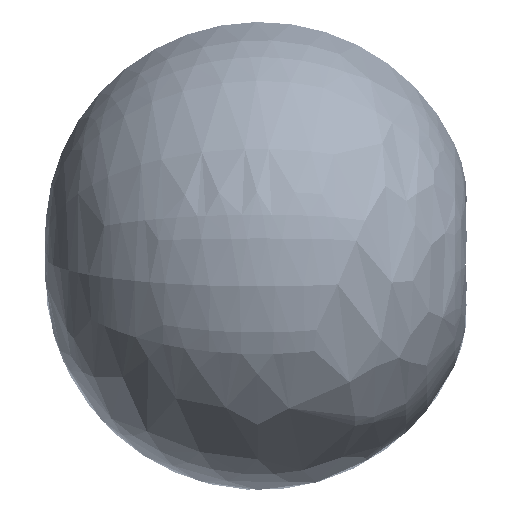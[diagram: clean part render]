
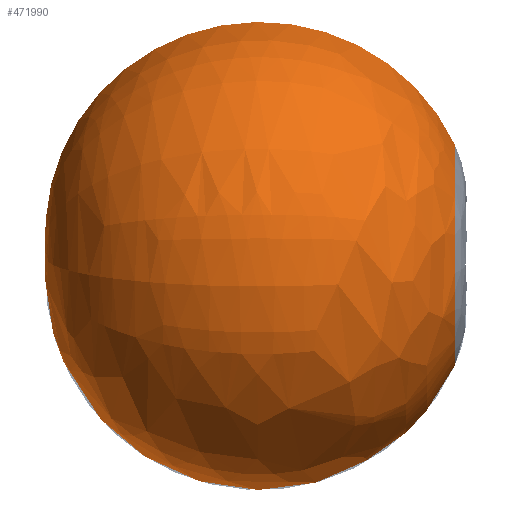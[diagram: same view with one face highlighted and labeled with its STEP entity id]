
A CAD part, left-side view. The second image highlights one B-rep face of the part: STEP entity #471990.
In plain terms, the highlighted free-form (B-spline) face has degree [3, 3] with [7, 4] control points.
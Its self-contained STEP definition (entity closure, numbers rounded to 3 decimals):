
#471766=CARTESIAN_POINT('',(-32.993,455.,187.113));
#471767=DIRECTION('',(-0.985,0.,-0.174));
#471768=DIRECTION('',(-0.073,-0.906,0.416));
#471769=AXIS2_PLACEMENT_3D('',#471766,#471767,#471768);
#471795=CARTESIAN_POINT('',(32.993,455.,187.113));
#471796=DIRECTION('',(-0.985,0.,0.174));
#471797=DIRECTION('',(0.073,-0.906,0.416));
#471798=AXIS2_PLACEMENT_3D('',#471795,#471796,#471797);
#471810=CARTESIAN_POINT('',(0.,-1295.129,0.));
#471811=DIRECTION('',(0.,-1.,0.));
#471812=DIRECTION('',(-0.174,0.,0.985));
#471813=AXIS2_PLACEMENT_3D('',#471810,#471811,#471812);
#471828=CARTESIAN_POINT('',(-174.707,-1295.129,
990.814));
#471829=VERTEX_POINT('',#471828);
#471830=CARTESIAN_POINT('',(0.,2376.684,
0.));
#471831=VERTEX_POINT('',#471830);
#471838=CARTESIAN_POINT('',(174.707,-1295.129,
990.814));
#471839=VERTEX_POINT('',#471838);
#471955=CARTESIAN_POINT('',(0.,2376.684,0.));
#471956=CARTESIAN_POINT('',(-165.851,2670.441,
2966.465));
#471957=CARTESIAN_POINT('',(-205.37,-229.993,
3673.313));
#471958=CARTESIAN_POINT('',(-50.615,-1338.118,
905.313));
#471959=CARTESIAN_POINT('',(0.,2376.684,
0.));
#471960=CARTESIAN_POINT('',(-5782.799,2670.441,
2652.429));
#471961=CARTESIAN_POINT('',(-7160.722,-229.993,
3284.448));
#471962=CARTESIAN_POINT('',(-1764.808,-1338.118,
809.474));
#471963=CARTESIAN_POINT('',(0.,2376.684,
0.));
#471964=CARTESIAN_POINT('',(-5625.72,2670.441,
-2971.098));
#471965=CARTESIAN_POINT('',(-6966.214,-229.993,
-3679.049));
#471966=CARTESIAN_POINT('',(-1716.87,-1338.118,
-906.726));
#471967=CARTESIAN_POINT('',(0.,2376.684,0.));
#471968=CARTESIAN_POINT('',(0.,2670.441,
-2971.098));
#471969=CARTESIAN_POINT('',(0.,-229.993,
-3679.049));
#471970=CARTESIAN_POINT('',(0.,-1338.118,
-906.726));
#471971=CARTESIAN_POINT('',(0.,2376.684,
0.));
#471972=CARTESIAN_POINT('',(5625.72,2670.441,
-2971.098));
#471973=CARTESIAN_POINT('',(6966.214,-229.993,
-3679.049));
#471974=CARTESIAN_POINT('',(1716.87,-1338.118,
-906.726));
#471975=CARTESIAN_POINT('',(0.,2376.684,
0.));
#471976=CARTESIAN_POINT('',(5782.799,2670.441,
2652.429));
#471977=CARTESIAN_POINT('',(7160.722,-229.993,
3284.448));
#471978=CARTESIAN_POINT('',(1764.808,-1338.118,
809.474));
#471979=CARTESIAN_POINT('',(0.,2376.684,0.));
#471980=CARTESIAN_POINT('',(165.851,2670.441,
2966.465));
#471981=CARTESIAN_POINT('',(205.37,-229.993,
3673.313));
#471982=CARTESIAN_POINT('',(50.615,-1338.118,
905.313));
#471983=(BOUNDED_SURFACE()B_SPLINE_SURFACE(3,3,((#471955,#471956,#471957,
#471958),(#471959,#471960,#471961,#471962),(#471963,#471964,#471965,#471966),(
#471967,#471968,#471969,#471970),(#471971,#471972,#471973,#471974),(#471975,
#471976,#471977,#471978),(#471979,#471980,#471981,#471982)),.UNSPECIFIED.,.F.,
.F.,.F.)B_SPLINE_SURFACE_WITH_KNOTS((4,3,4),(4,4),(0.,1.,2.),(0.,1.),
.UNSPECIFIED.)GEOMETRIC_REPRESENTATION_ITEM()RATIONAL_B_SPLINE_SURFACE(((
3.412,1.457,1.457,3.412),(
1.201,0.513,0.513,1.201),(
1.201,0.513,0.513,1.201),(
3.412,1.457,1.457,3.412),(
1.201,0.513,0.513,1.201),(
1.201,0.513,0.513,1.201),(
3.412,1.457,1.457,3.412)))REPRESENTATION_ITEM('')SURFACE());
#471984=ORIENTED_EDGE('',*,*,#471853,.F.);
#471986=ORIENTED_EDGE('',*,*,#471985,.T.);
#471987=ORIENTED_EDGE('',*,*,#471945,.T.);
#471988=EDGE_LOOP('',(#471984,#471986,#471987));
#471989=FACE_OUTER_BOUND('',#471988,.F.);
#471990=ADVANCED_FACE('',(#471989),#471983,.T.);
#471770=CIRCLE('',#471769,1931.053);
#471799=CIRCLE('',#471798,1931.053);
#471814=CIRCLE('',#471813,1006.098);
#471853=EDGE_CURVE('',#471829,#471831,#471770,.T.);
#471945=EDGE_CURVE('',#471839,#471831,#471799,.T.);
#471985=EDGE_CURVE('',#471829,#471839,#471814,.T.);
